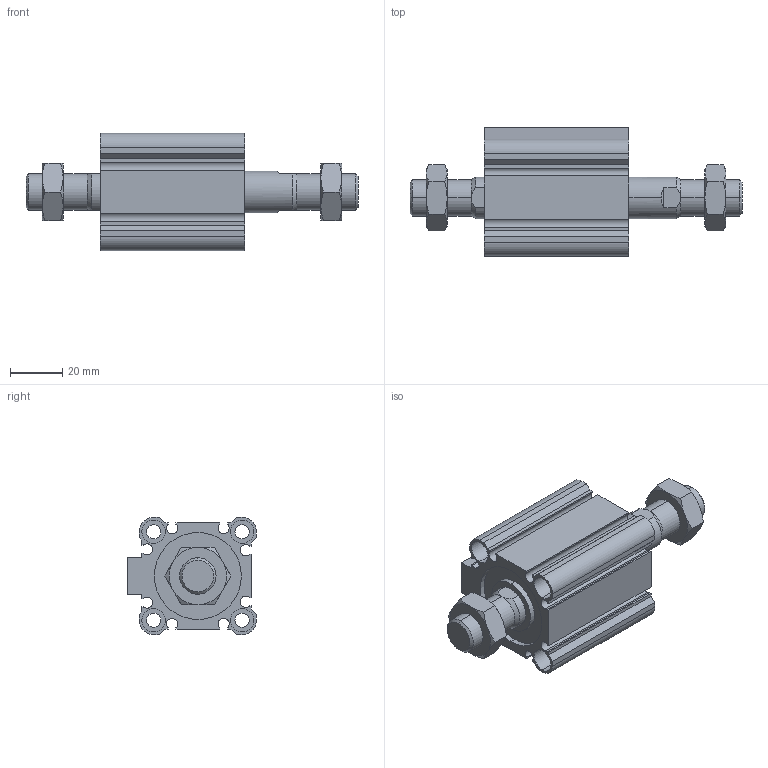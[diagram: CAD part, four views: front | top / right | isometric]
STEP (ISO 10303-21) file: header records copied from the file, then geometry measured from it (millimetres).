
FILE_DESCRIPTION (( 'STEP AP203' ), '1' );
FILE_NAME ('CCMB32-15M-P.STEP', '2020-08-10T11:31:41', ( '' ), ( '' ), 'SwSTEP 2.0', 'SolidWorks 2019', '' );
FILE_SCHEMA (( 'CONFIG_CONTROL_DESIGN' ));
Length unit declared in the file: millimetre
Products named in the file (1): CCMB32-15M-P
Bounding box: 127.5 x 49.5 x 45 mm (x, y, z)
Volume: 95288.2 mm3; surface area: 39730.8 mm2
Topology: 4 solids, 4 shells, 216 faces, 522 edges, 332 vertices
Faces by surface type: plane 94, cylinder 78, cone 44
Entity records: 7009 total; most frequent: CARTESIAN_POINT 1819, DIRECTION 1088, ORIENTED_EDGE 1044, EDGE_CURVE 522, AXIS2_PLACEMENT_3D 413, VERTEX_POINT 332, LINE 262, VECTOR 262
